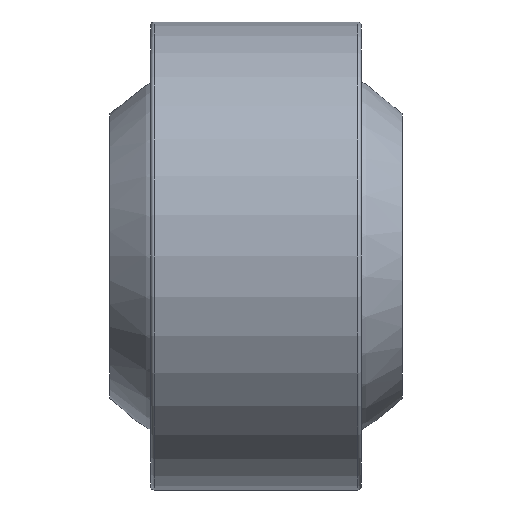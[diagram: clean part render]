
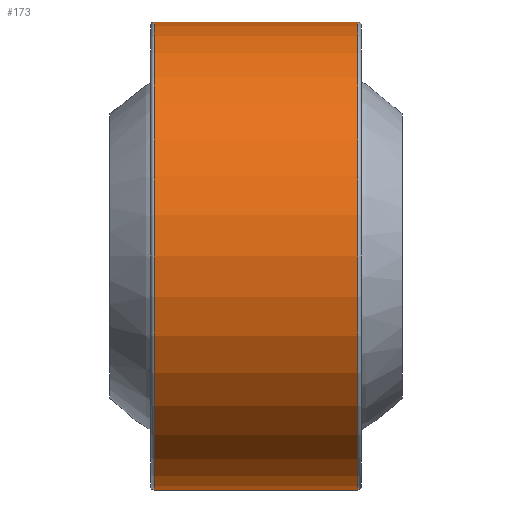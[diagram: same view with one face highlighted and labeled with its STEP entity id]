
A CAD part, front view. The second image highlights one B-rep face of the part: STEP entity #173.
In plain terms, the highlighted cylindrical face has radius 20 mm (diameter 40 mm), a full revolution.
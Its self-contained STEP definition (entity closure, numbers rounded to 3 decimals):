
#173 = ADVANCED_FACE( '', ( #193, #194 ), #195, .T. );
#193 = FACE_OUTER_BOUND( '', #224, .T. );
#194 = FACE_OUTER_BOUND( '', #225, .T. );
#195 = CYLINDRICAL_SURFACE( '', #226, 20. );
#224 = EDGE_LOOP( '', ( #262 ) );
#225 = EDGE_LOOP( '', ( #263 ) );
#226 = AXIS2_PLACEMENT_3D( '', #264, #265, #266 );
#262 = ORIENTED_EDGE( '', *, *, #297, .T. );
#263 = ORIENTED_EDGE( '', *, *, #296, .F. );
#264 = CARTESIAN_POINT( '', ( 9., 0., 0. ) );
#265 = DIRECTION( '', ( -1., 0., 0. ) );
#266 = DIRECTION( '', ( 0., 0., -1. ) );
#296 = EDGE_CURVE( '', #310, #310, #311, .T. );
#297 = EDGE_CURVE( '', #312, #312, #313, .T. );
#310 = VERTEX_POINT( '', #330 );
#311 = CIRCLE( '', #331, 20. );
#312 = VERTEX_POINT( '', #332 );
#313 = CIRCLE( '', #333, 20. );
#330 = CARTESIAN_POINT( '', ( 8.7, 0., -20. ) );
#331 = AXIS2_PLACEMENT_3D( '', #354, #355, #356 );
#332 = CARTESIAN_POINT( '', ( -8.7, 0., -20. ) );
#333 = AXIS2_PLACEMENT_3D( '', #357, #358, #359 );
#354 = CARTESIAN_POINT( '', ( 8.7, 0., 0. ) );
#355 = DIRECTION( '', ( 1., 0., 0. ) );
#356 = DIRECTION( '', ( 0., 0., -1. ) );
#357 = CARTESIAN_POINT( '', ( -8.7, 0., 0. ) );
#358 = DIRECTION( '', ( 1., 0., 0. ) );
#359 = DIRECTION( '', ( 0., 0., -1. ) );
